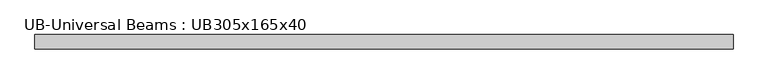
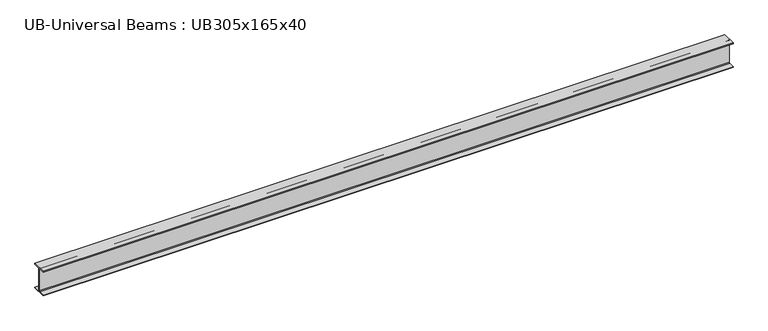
"""IFC4 building model written with IfcOpenShell, lengths in millimetres: beam geometry, UB-Universal Beams : UB305x165x40."""

from ifc_helpers import new_model, si_unit, point, frame, frame_2d, origin, place, context, project, spatial, polyline, circle_curve, trimmed, segment, composite_curve, outline, extrude, source, transform, mapped, element, save


def ub_universal_beams_ub305x165x40_f8523725(model_context):
    return source(origin(), model_context, "Body", "SweptSolid", [
        extrude(outline(composite_curve([segment(polyline([(82.5, -141.5), (82.5, -151.7), (-82.5, -151.7), (-82.5, -141.5), (-11.9, -141.5)]), True, "CONTINUOUS"), segment(trimmed(circle_curve(frame_2d((-11.9, -132.6)), 8.9), [point((-11.9, -141.5))], [point((-3.0, -132.6))], True, "CARTESIAN"), True, "CONTINUOUS"), segment(polyline([(-3.0, -132.6), (-3.0, 132.6)]), True, "CONTINUOUS"), segment(trimmed(circle_curve(frame_2d((-11.9, 132.6)), 8.9), [point((-3.0, 132.6))], [point((-11.9, 141.5))], True, "CARTESIAN"), True, "CONTINUOUS"), segment(polyline([(-11.9, 141.5), (-82.5, 141.5), (-82.5, 151.7), (82.5, 151.7), (82.5, 141.5), (11.9, 141.5)]), True, "CONTINUOUS"), segment(trimmed(circle_curve(frame_2d((11.9, 132.6)), 8.9), [point((11.9, 141.5))], [point((3.0, 132.6))], True, "CARTESIAN"), True, "CONTINUOUS"), segment(polyline([(3.0, 132.6), (3.0, -132.6)]), True, "CONTINUOUS"), segment(trimmed(circle_curve(frame_2d((11.9, -132.6)), 8.9), [point((3.0, -132.6))], [point((11.9, -141.5))], True, "CARTESIAN"), True, "CONTINUOUS"), segment(polyline([(11.9, -141.5), (82.5, -141.5)]), True, "CONTINUOUS")], self_intersect=False)), frame((-4140.9, 0.0, 0.0), z_axis=(1.0, 0.0, 0.0), x_axis=(0.0, 1.0, 0.0)), (0.0, 0.0, 1.0), 8086.9),
    ])


if __name__ == "__main__":
    model = new_model("IFC4")
    model_context = context("Model", 3, world=origin())
    ifc_project = project(units=[si_unit("LENGTHUNIT", "METRE", prefix="MILLI")], contexts=[model_context])
    site = spatial("IfcSite", under=ifc_project)
    building = spatial("IfcBuilding", under=site)
    placement = place(None, origin())
    ub_universal_beams_ub305x165x40_shape = ub_universal_beams_ub305x165x40_f8523725(model_context)
    element("IfcBeam", 1, ObjectType="UB-Universal Beams : UB305x165x40", at=placement, inside=building, context=model_context, shape_type="MappedRepresentation", body=[
        mapped(ub_universal_beams_ub305x165x40_shape, transform((0.0, 0.0, 0.0), x_axis=(1.0, 0.0, 0.0), y_axis=(0.0, 1.0, 0.0), z_axis=(0.0, 0.0, 1.0))),
    ])
    save(model, "model.ifc")
